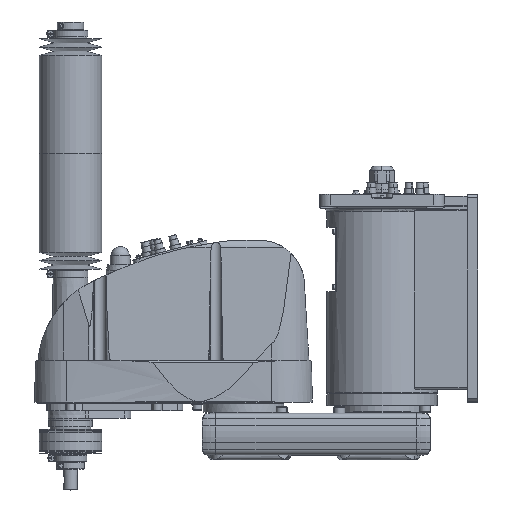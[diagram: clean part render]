
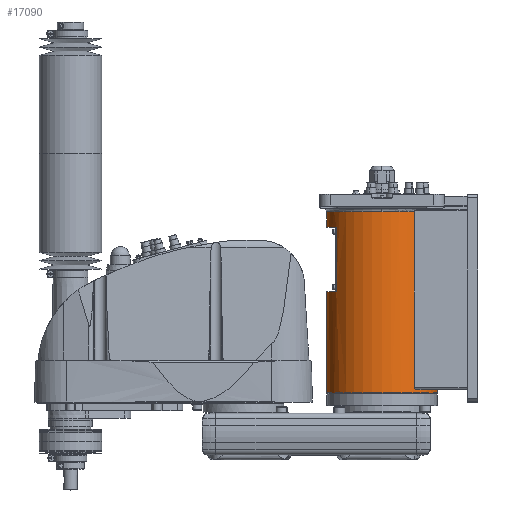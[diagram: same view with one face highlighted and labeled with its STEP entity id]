
A CAD part, top view. The second image highlights one B-rep face of the part: STEP entity #17090.
In plain terms, the highlighted cylindrical face has radius 80 mm (diameter 160 mm), a partial arc.
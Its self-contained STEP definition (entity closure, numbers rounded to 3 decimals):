
#9838 = EDGE_CURVE( '', #17498, #14790, #28392, .T. );
#10118 = EDGE_CURVE( '', #12144, #25890, #28691, .T. );
#10196 = EDGE_CURVE( '', #23306, #17498, #28779, .T. );
#10250 = EDGE_CURVE( '', #17678, #12222, #28839, .T. );
#10692 = VERTEX_POINT( '', #29344 );
#11082 = EDGE_CURVE( '', #17678, #12144, #29777, .T. );
#11810 = VERTEX_POINT( '', #30587 );
#12144 = VERTEX_POINT( '', #30950 );
#12222 = VERTEX_POINT( '', #31039 );
#14776 = EDGE_CURVE( '', #11810, #16908, #33892, .T. );
#14790 = VERTEX_POINT( '', #33906 );
#15196 = EDGE_CURVE( '', #25890, #18912, #34360, .T. );
#16908 = VERTEX_POINT( '', #36249 );
#17090 = ADVANCED_FACE( '', ( #36454 ), #36455, .T. );
#17498 = VERTEX_POINT( '', #36905 );
#17654 = EDGE_CURVE( '', #23260, #23306, #37084, .T. );
#17678 = VERTEX_POINT( '', #37110 );
#18912 = VERTEX_POINT( '', #38479 );
#22386 = EDGE_CURVE( '', #12222, #10692, #42380, .T. );
#23260 = VERTEX_POINT( '', #43368 );
#23306 = VERTEX_POINT( '', #43420 );
#24292 = EDGE_CURVE( '', #14790, #11810, #44516, .T. );
#25036 = EDGE_CURVE( '', #18912, #23260, #45337, .T. );
#25890 = VERTEX_POINT( '', #46306 );
#26928 = EDGE_CURVE( '', #16908, #10692, #47459, .T. );
#28392 = LINE( '', #49281, #49282 );
#28691 = CIRCLE( '', #49724, 80. );
#28779 = CIRCLE( '', #49870, 80. );
#28839 = CIRCLE( '', #49960, 80. );
#29344 = CARTESIAN_POINT( '', ( 46.637, 291.5, 65. ) );
#29777 = LINE( '', #51346, #51347 );
#30587 = CARTESIAN_POINT( '', ( 50.557, 34.5, 62. ) );
#30950 = CARTESIAN_POINT( '', ( -80., 269., 0. ) );
#31039 = CARTESIAN_POINT( '', ( 0., 291.5, 80. ) );
#33892 = B_SPLINE_CURVE_WITH_KNOTS( '', 3, ( #57587, #57588, #57589, #57590, #57591, #57592, #57593, #57594, #57595, #57596, #57597, #57598, #57599, #57600, #57601, #57602 ), .UNSPECIFIED., .F., .F., ( 4, 2, 2, 2, 2, 2, 2, 4 ), ( -6.06, -5.11, -4.16, -2.26, -1.695, -1.13, -0.565, 0. ), .UNSPECIFIED. );
#33906 = CARTESIAN_POINT( '', ( 80., 34.5, 0. ) );
#34360 = LINE( '', #58366, #58367 );
#36249 = CARTESIAN_POINT( '', ( 46.637, 37.5, 65. ) );
#36454 = FACE_OUTER_BOUND( '', #61726, .T. );
#36455 = CYLINDRICAL_SURFACE( '', #61727, 80. );
#36905 = CARTESIAN_POINT( '', ( 80., 30., 0. ) );
#37084 = LINE( '', #62639, #62640 );
#37110 = CARTESIAN_POINT( '', ( -80., 291.5, 0. ) );
#38479 = CARTESIAN_POINT( '', ( -66., 176., 45.211 ) );
#42380 = CIRCLE( '', #70736, 80. );
#43368 = CARTESIAN_POINT( '', ( -80., 176., 0. ) );
#43420 = CARTESIAN_POINT( '', ( -80., 30., 0. ) );
#44516 = CIRCLE( '', #74194, 80. );
#45337 = CIRCLE( '', #75404, 80. );
#46306 = CARTESIAN_POINT( '', ( -66., 269., 45.211 ) );
#47459 = LINE( '', #78598, #78599 );
#49281 = CARTESIAN_POINT( '', ( 80., 160.75, 0. ) );
#49282 = VECTOR( '', #80842, 1. );
#49724 = AXIS2_PLACEMENT_3D( '', #81118, #81119, #81120 );
#49870 = AXIS2_PLACEMENT_3D( '', #81228, #81229, #81230 );
#49960 = AXIS2_PLACEMENT_3D( '', #81289, #81290, #81291 );
#51346 = CARTESIAN_POINT( '', ( -80., 160.75, 0. ) );
#51347 = VECTOR( '', #82419, 1. );
#57587 = CARTESIAN_POINT( '', ( 50.557, 34.5, 62. ) );
#57588 = CARTESIAN_POINT( '', ( 50.312, 34.5, 62.2 ) );
#57589 = CARTESIAN_POINT( '', ( 50.054, 34.52, 62.407 ) );
#57590 = CARTESIAN_POINT( '', ( 49.533, 34.607, 62.822 ) );
#57591 = CARTESIAN_POINT( '', ( 49.269, 34.674, 63.029 ) );
#57592 = CARTESIAN_POINT( '', ( 48.491, 34.945, 63.632 ) );
#57593 = CARTESIAN_POINT( '', ( 47.991, 35.221, 64.009 ) );
#57594 = CARTESIAN_POINT( '', ( 47.455, 35.701, 64.405 ) );
#57595 = CARTESIAN_POINT( '', ( 47.333, 35.827, 64.495 ) );
#57596 = CARTESIAN_POINT( '', ( 47.106, 36.105, 64.661 ) );
#57597 = CARTESIAN_POINT( '', ( 47.002, 36.258, 64.736 ) );
#57598 = CARTESIAN_POINT( '', ( 46.828, 36.585, 64.863 ) );
#57599 = CARTESIAN_POINT( '', ( 46.758, 36.761, 64.913 ) );
#57600 = CARTESIAN_POINT( '', ( 46.662, 37.124, 64.982 ) );
#57601 = CARTESIAN_POINT( '', ( 46.637, 37.312, 65. ) );
#57602 = CARTESIAN_POINT( '', ( 46.637, 37.5, 65. ) );
#58366 = CARTESIAN_POINT( '', ( -66., 222.5, 45.211 ) );
#58367 = VECTOR( '', #87661, 1. );
#61726 = EDGE_LOOP( '', ( #90013, #90014, #90015, #90016, #90017, #90018, #90019, #90020, #90021, #90022, #90023, #90024 ) );
#61727 = AXIS2_PLACEMENT_3D( '', #90025, #90026, #90027 );
#62639 = CARTESIAN_POINT( '', ( -80., 160.75, 0. ) );
#62640 = VECTOR( '', #90744, 1. );
#70736 = AXIS2_PLACEMENT_3D( '', #97026, #97027, #97028 );
#74194 = AXIS2_PLACEMENT_3D( '', #99489, #99490, #99491 );
#75404 = AXIS2_PLACEMENT_3D( '', #100397, #100398, #100399 );
#78598 = CARTESIAN_POINT( '', ( 46.637, 164.5, 65. ) );
#78599 = VECTOR( '', #102919, 1. );
#80842 = DIRECTION( '', ( 0., 1., 0. ) );
#81118 = CARTESIAN_POINT( '', ( 0., 269., 0. ) );
#81119 = DIRECTION( '', ( 0., 1., 0. ) );
#81120 = DIRECTION( '', ( 1., 0., 0. ) );
#81228 = CARTESIAN_POINT( '', ( 0., 30., 0. ) );
#81229 = DIRECTION( '', ( 0., 1., 0. ) );
#81230 = DIRECTION( '', ( 1., 0., 0. ) );
#81289 = CARTESIAN_POINT( '', ( 0., 291.5, 0. ) );
#81290 = DIRECTION( '', ( 0., 1., 0. ) );
#81291 = DIRECTION( '', ( 1., 0., 0. ) );
#82419 = DIRECTION( '', ( 0., -1., 0. ) );
#87661 = DIRECTION( '', ( 0., -1., 0. ) );
#90013 = ORIENTED_EDGE( '', *, *, #9838, .T. );
#90014 = ORIENTED_EDGE( '', *, *, #24292, .T. );
#90015 = ORIENTED_EDGE( '', *, *, #14776, .T. );
#90016 = ORIENTED_EDGE( '', *, *, #26928, .T. );
#90017 = ORIENTED_EDGE( '', *, *, #22386, .F. );
#90018 = ORIENTED_EDGE( '', *, *, #10250, .F. );
#90019 = ORIENTED_EDGE( '', *, *, #11082, .T. );
#90020 = ORIENTED_EDGE( '', *, *, #10118, .T. );
#90021 = ORIENTED_EDGE( '', *, *, #15196, .T. );
#90022 = ORIENTED_EDGE( '', *, *, #25036, .T. );
#90023 = ORIENTED_EDGE( '', *, *, #17654, .T. );
#90024 = ORIENTED_EDGE( '', *, *, #10196, .T. );
#90025 = CARTESIAN_POINT( '', ( 0., 160.75, 0. ) );
#90026 = DIRECTION( '', ( 0., -1., 0. ) );
#90027 = DIRECTION( '', ( 1., 0., 0. ) );
#90744 = DIRECTION( '', ( 0., -1., 0. ) );
#97026 = CARTESIAN_POINT( '', ( 0., 291.5, 0. ) );
#97027 = DIRECTION( '', ( 0., 1., 0. ) );
#97028 = DIRECTION( '', ( 1., 0., 0. ) );
#99489 = CARTESIAN_POINT( '', ( 0., 34.5, 0. ) );
#99490 = DIRECTION( '', ( 0., -1., 0. ) );
#99491 = DIRECTION( '', ( 1., 0., 0. ) );
#100397 = CARTESIAN_POINT( '', ( 0., 176., 0. ) );
#100398 = DIRECTION( '', ( 0., -1., 0. ) );
#100399 = DIRECTION( '', ( 1., 0., 0. ) );
#102919 = DIRECTION( '', ( 0., 1., 0. ) );
